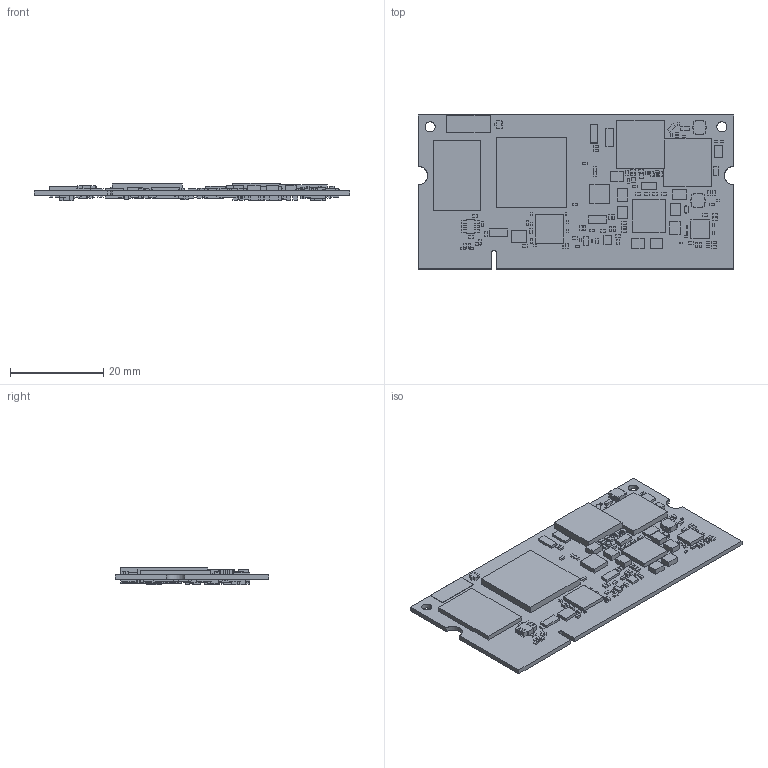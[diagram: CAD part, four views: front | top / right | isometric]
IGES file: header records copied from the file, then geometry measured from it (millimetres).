
Start section: SolidWorks IGES file using analytic representation for surfaces
Global section: file name: D:\VPC0411-FINAL.IGS; native system: SolidWorks 2022; preprocessor: SolidWorks 2022; author: Äãñëí; date: 220314.153810; units: millimetre
Bounding box: 67.6 x 32.99 x 3.71 mm (x, y, z)
Surface area: 8346.2 mm2 (no closed solid volume)
Topology: 0 solids, 0 shells, 2358 faces, 9898 edges, 9898 vertices
Faces by surface type: bspline 2349, revolution 9
